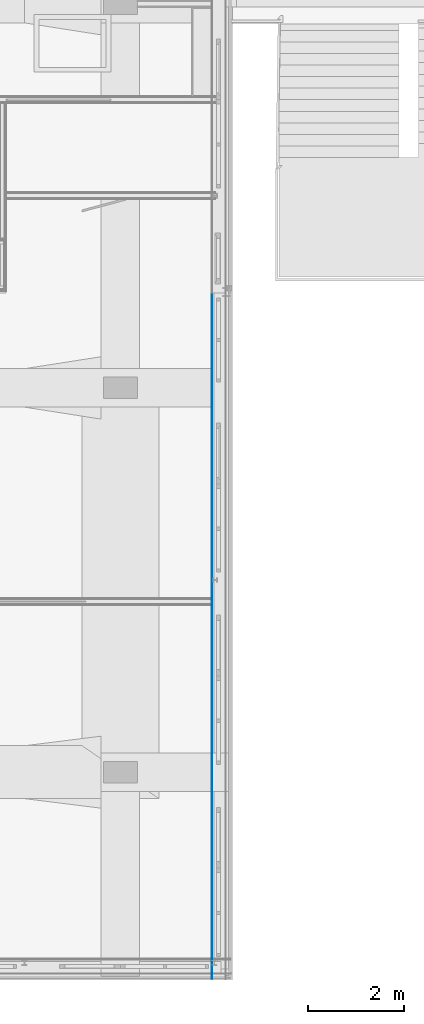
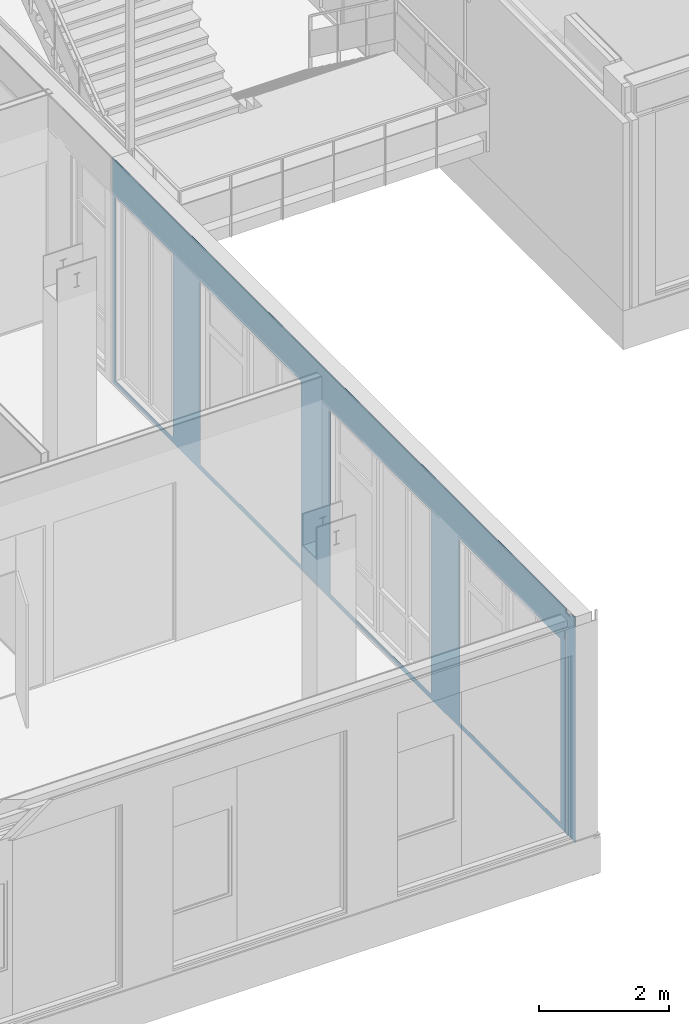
# One storey, part 39 of 94: 1 building element part, 7 openings, 1 element without a shape of its own.
"""IFC2X3 building model written with IfcOpenShell, lengths in millimetres."""

from ifc_helpers import new_model, entity, si_unit, converted_unit, derived_unit, money_unit, direction, frame, origin_with_axes, place, context, subcontext, project, spatial, faceted_brep, material, type_object, element, aggregate, save


model = new_model("IFC2X3")

# Units and contexts
model_context = context("Model", 3, precision=0.01, world=origin_with_axes(), true_north=direction((0.0, 1.0)))
body_context = subcontext(model_context, "Body", "Model", "MODEL_VIEW")
ifc_project = project(units=[si_unit("LENGTHUNIT", "METRE", prefix="MILLI"), si_unit("AREAUNIT", "SQUARE_METRE"), si_unit("VOLUMEUNIT", "CUBIC_METRE"), converted_unit("PLANEANGLEUNIT", "DEGREE", entity("IfcPlaneAngleMeasure", 0.0174532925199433), si_unit("PLANEANGLEUNIT", "RADIAN"), dimensions=[0, 0, 0, 0, 0, 0, 0]), money_unit("EUR"), converted_unit("TIMEUNIT", "Year", entity("IfcTimeMeasure", 31557600.0), si_unit("TIMEUNIT", "SECOND"), dimensions=[0, 0, 1, 0, 0, 0, 0]), si_unit("MASSUNIT", "GRAM", prefix="KILO"), si_unit("THERMODYNAMICTEMPERATUREUNIT", "DEGREE_CELSIUS"), si_unit("LUMINOUSINTENSITYUNIT", "LUMEN"), si_unit("ENERGYUNIT", "JOULE", prefix="MEGA"), derived_unit("THERMALCONDUCTANCEUNIT", [(si_unit("POWERUNIT", "WATT"), 1), (si_unit("LENGTHUNIT", "METRE"), -1), (si_unit("THERMODYNAMICTEMPERATUREUNIT", "KELVIN"), -1)]), derived_unit("SPECIFICHEATCAPACITYUNIT", [(si_unit("ENERGYUNIT", "JOULE"), 1), (si_unit("MASSUNIT", "GRAM", prefix="KILO"), -1), (si_unit("THERMODYNAMICTEMPERATUREUNIT", "KELVIN"), -1)]), derived_unit("MASSDENSITYUNIT", [(si_unit("MASSUNIT", "GRAM", prefix="KILO"), 1), (si_unit("VOLUMEUNIT", "CUBIC_METRE"), -1)])], contexts=[model_context])

# Site, building, storey
site_placement = place(None, origin_with_axes())
site = spatial("IfcSite", under=ifc_project, at=site_placement, Name="<site naam>", CompositionType="ELEMENT")
building_placement = place(site_placement, origin_with_axes())
building = spatial("IfcBuilding", under=site, at=building_placement, Name="<Naam gebouw>", CompositionType="ELEMENT")
storey_placement = place(building_placement, frame((0.0, 0.0, 4250.0), z_axis=(0.0, 0.0, 1.0), x_axis=(1.0, 0.0, 0.0)))
storey = spatial("IfcBuildingStorey", under=building, at=storey_placement, Name="01 1e verdieping", CompositionType="ELEMENT", Elevation=4250.0)

# Wall, openings, building element part
wall_type = type_object("IfcWallType", Name="HSB_285 gevelbeplating 420", PredefinedType="NOTDEFINED")
wall_placement = place(storey_placement, frame((4298.044439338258, -12297.99999999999, 0.0), z_axis=(0.0, 0.0, 1.0), x_axis=(0.0, 1.0, 0.0)))
wall = element("IfcWall", 1, at=wall_placement, inside=storey, type_object=wall_type, Name="21_Binnenwand_HSB_285")
opening_1_placement = place(wall_placement, frame((1379.500065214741, 0.0, 102.9999634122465), z_axis=(0.0, 0.0, 1.0), x_axis=(1.0, 0.0, 0.0)))
element("IfcOpeningElement", 2, at=opening_1_placement, cuts=wall, Name="21_BU-A-12a_305", context=body_context, shape_type="Brep", body=[
    faceted_brep([(918.5000652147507, 213.0000000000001, 0.0), (918.5000652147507, 213.0000000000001, 3454.0), (918.5000652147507, -1.000000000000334, 3454.0), (918.5000652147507, -1.000000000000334, 0.0), (918.5000652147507, 420.9999999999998, 0.0), (918.5000652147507, 420.9999999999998, 3454.0), (-918.5000652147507, 213.0000000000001, 3454.0), (-918.5000652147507, -1.000000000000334, 3454.0), (-918.5000652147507, -1.000000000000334, 0.0), (-918.5000652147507, 213.0000000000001, 0.0), (-918.5000652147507, 420.9999999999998, 0.0), (-918.5000652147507, 420.9999999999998, 3454.0)], [[[0, 1, 2, 3]], [[1, 0, 4, 5]], [[1, 6, 7, 2]], [[7, 8, 3, 2]], [[9, 0, 3, 8]], [[0, 9, 10, 4]], [[5, 4, 10, 11]], [[6, 1, 5, 11]], [[6, 9, 8, 7]], [[9, 6, 11, 10]]]),
])
opening_2_placement = place(wall_placement, frame((2931.50007085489, 0.0, 102.9999634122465), z_axis=(0.0, 0.0, 1.0), x_axis=(1.0, 0.0, 0.0)))
element("IfcOpeningElement", 3, at=opening_2_placement, cuts=wall, Name="21_BU-A-12b_305", context=body_context, shape_type="Brep", body=[
    faceted_brep([(633.4999291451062, 213.0000000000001, 0.0), (633.4999291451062, 213.0000000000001, 3454.0), (633.4999291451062, -1.000000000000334, 3454.0), (633.4999291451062, -1.000000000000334, 0.0), (633.4999291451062, 420.9999999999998, 0.0), (633.4999291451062, 420.9999999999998, 3454.0), (-633.4999291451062, 213.0000000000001, 3454.0), (-633.4999291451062, -1.000000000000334, 3454.0), (-633.4999291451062, -1.000000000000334, 0.0), (-633.4999291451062, 213.0000000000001, 0.0), (-633.4999291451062, 420.9999999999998, 0.0), (-633.4999291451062, 420.9999999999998, 3454.0)], [[[0, 1, 2, 3]], [[1, 0, 4, 5]], [[1, 6, 7, 2]], [[7, 8, 3, 2]], [[9, 0, 3, 8]], [[0, 9, 10, 4]], [[5, 4, 10, 11]], [[6, 1, 5, 11]], [[6, 9, 8, 7]], [[9, 6, 11, 10]]]),
])
opening_3_placement = place(wall_placement, frame((5379.47903416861, 0.0, 102.9999634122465), z_axis=(0.0, 0.0, 1.0), x_axis=(1.0, 0.0, 0.0)))
element("IfcOpeningElement", 4, at=opening_3_placement, cuts=wall, Name="21_BU-A-12a_305", context=body_context, shape_type="Brep", body=[
    faceted_brep([(918.5000652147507, 213.0000000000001, 0.0), (918.5000652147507, 213.0000000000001, 3454.0), (918.5000652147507, -1.000000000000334, 3454.0), (918.5000652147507, -1.000000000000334, 0.0), (918.5000652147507, 420.9999999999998, 0.0), (918.5000652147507, 420.9999999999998, 3454.0), (-918.5000652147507, 213.0000000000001, 3454.0), (-918.5000652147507, -1.000000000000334, 3454.0), (-918.5000652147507, -1.000000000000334, 0.0), (-918.5000652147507, 213.0000000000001, 0.0), (-918.5000652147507, 420.9999999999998, 0.0), (-918.5000652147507, 420.9999999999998, 3454.0)], [[[0, 1, 2, 3]], [[1, 0, 4, 5]], [[1, 6, 7, 2]], [[7, 8, 3, 2]], [[9, 0, 3, 8]], [[0, 9, 10, 4]], [[5, 4, 10, 11]], [[6, 1, 5, 11]], [[6, 9, 8, 7]], [[9, 6, 11, 10]]]),
])
opening_4_placement = place(wall_placement, frame((6931.500070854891, 0.0, 102.9999634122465), z_axis=(0.0, 0.0, 1.0), x_axis=(1.0, 0.0, 0.0)))
element("IfcOpeningElement", 5, at=opening_4_placement, cuts=wall, Name="21_BU-A-12b_305", context=body_context, shape_type="Brep", body=[
    faceted_brep([(633.4999291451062, 213.0000000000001, 0.0), (633.4999291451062, 213.0000000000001, 3454.0), (633.4999291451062, -1.000000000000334, 3454.0), (633.4999291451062, -1.000000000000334, 0.0), (633.4999291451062, 420.9999999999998, 0.0), (633.4999291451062, 420.9999999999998, 3454.0), (-633.4999291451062, 213.0000000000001, 3454.0), (-633.4999291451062, -1.000000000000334, 3454.0), (-633.4999291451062, -1.000000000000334, 0.0), (-633.4999291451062, 213.0000000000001, 0.0), (-633.4999291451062, 420.9999999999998, 0.0), (-633.4999291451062, 420.9999999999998, 3454.0)], [[[0, 1, 2, 3]], [[1, 0, 4, 5]], [[1, 6, 7, 2]], [[7, 8, 3, 2]], [[9, 0, 3, 8]], [[0, 9, 10, 4]], [[5, 4, 10, 11]], [[6, 1, 5, 11]], [[6, 9, 8, 7]], [[9, 6, 11, 10]]]),
])
opening_5_placement = place(wall_placement, frame((10931.50007085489, 0.0, 102.9999634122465), z_axis=(0.0, 0.0, 1.0), x_axis=(1.0, 0.0, 0.0)))
element("IfcOpeningElement", 6, at=opening_5_placement, cuts=wall, Name="21_BU-A-12b_305", context=body_context, shape_type="Brep", body=[
    faceted_brep([(633.4999291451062, 212.9999999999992, 0.0), (633.4999291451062, 212.9999999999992, 3454.0), (633.4999291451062, -1.000000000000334, 3454.0), (633.4999291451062, -1.000000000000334, 0.0), (633.4999291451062, 420.9999999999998, 0.0), (633.4999291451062, 420.9999999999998, 3454.0), (-633.4999291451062, 212.9999999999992, 3454.0), (-633.4999291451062, -1.000000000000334, 3454.0), (-633.4999291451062, -1.000000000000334, 0.0), (-633.4999291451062, 212.9999999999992, 0.0), (-633.4999291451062, 420.9999999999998, 0.0), (-633.4999291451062, 420.9999999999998, 3454.0)], [[[0, 1, 2, 3]], [[1, 0, 4, 5]], [[1, 6, 7, 2]], [[7, 8, 3, 2]], [[9, 0, 3, 8]], [[0, 9, 10, 4]], [[5, 4, 10, 11]], [[6, 1, 5, 11]], [[6, 9, 8, 7]], [[9, 6, 11, 10]]]),
])
opening_6_placement = place(wall_placement, frame((13295.52252618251, 0.0, 102.9999634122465), z_axis=(0.0, 0.0, 1.0), x_axis=(1.0, 0.0, 0.0)))
element("IfcOpeningElement", 7, at=opening_6_placement, cuts=wall, Name="21_BU-A-14a_305", context=body_context, shape_type="Brep", body=[
    faceted_brep([(879.4969387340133, 212.9999999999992, 0.0), (879.4969387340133, 212.9999999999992, 3454.0), (879.4969387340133, -1.000000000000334, 3454.0), (879.4969387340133, -1.000000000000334, 0.0), (879.4969387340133, 420.9999999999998, 0.0), (879.4969387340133, 420.9999999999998, 3454.0), (-879.4969387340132, 212.9999999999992, 3454.0), (-879.4969387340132, -1.000000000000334, 3454.0), (-879.4969387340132, -1.000000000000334, 0.0), (-879.4969387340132, 212.9999999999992, 0.0), (-879.4969387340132, 420.9999999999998, 0.0), (-879.4969387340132, 420.9999999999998, 3454.0)], [[[0, 1, 2, 3]], [[1, 0, 4, 5]], [[1, 6, 7, 2]], [[7, 8, 3, 2]], [[9, 0, 3, 8]], [[0, 9, 10, 4]], [[5, 4, 10, 11]], [[6, 1, 5, 11]], [[6, 9, 8, 7]], [[9, 6, 11, 10]]]),
])
opening_7_placement = place(wall_placement, frame((9379.500065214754, 0.0, 102.9999634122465), z_axis=(0.0, 0.0, 1.0), x_axis=(1.0, 0.0, 0.0)))
element("IfcOpeningElement", 8, at=opening_7_placement, cuts=wall, Name="21_BU-A-12a_305", context=body_context, shape_type="Brep", body=[
    faceted_brep([(918.5000652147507, 212.9999999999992, 0.0), (918.5000652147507, 212.9999999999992, 3454.0), (918.5000652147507, -1.000000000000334, 3454.0), (918.5000652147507, -1.000000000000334, 0.0), (918.5000652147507, 420.9999999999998, 0.0), (918.5000652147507, 420.9999999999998, 3454.0), (-918.5000652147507, 212.9999999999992, 3454.0), (-918.5000652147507, -1.000000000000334, 3454.0), (-918.5000652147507, -1.000000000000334, 0.0), (-918.5000652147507, 212.9999999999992, 0.0), (-918.5000652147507, 420.9999999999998, 0.0), (-918.5000652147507, 420.9999999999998, 3454.0)], [[[0, 1, 2, 3]], [[1, 0, 4, 5]], [[1, 6, 7, 2]], [[7, 8, 3, 2]], [[9, 0, 3, 8]], [[0, 9, 10, 4]], [[5, 4, 10, 11]], [[6, 1, 5, 11]], [[6, 9, 8, 7]], [[9, 6, 11, 10]]]),
])
ifc_material = material(Name="folie_dampdicht")
building_element_part_placement = place(wall_placement, origin_with_axes())
building_element_part = element("IfcBuildingElementPart", 9, at=building_element_part_placement, material=ifc_material, Name="folie_dampdicht", context=body_context, shape_type="Brep", body=[
    faceted_brep([(369.5000008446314, 391.9999999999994, 3618.499636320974), (369.5000008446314, 391.9999999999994, 3789.999753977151), (377.5000033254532, 391.9999999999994, 3789.999753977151), (377.5000033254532, 391.9999999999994, 3618.499636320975), (380.4704067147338, 391.9999999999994, 3618.499636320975), (380.4705738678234, 391.9999999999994, 3609.99927844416), (377.5000033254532, 391.9999999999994, 3609.99927844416), (377.5000033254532, 391.9999999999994, 0.0), (417.968378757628, 391.9999999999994, 0.0), (417.968378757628, 391.9999999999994, 3.000000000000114), (7771.434730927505, 391.9999999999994, 3.000000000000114), (7771.434730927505, 391.9999999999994, 0.0), (7921.434765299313, 391.9999999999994, 0.0), (7921.434765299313, 391.9999999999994, 3.000000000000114), (14276.35758320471, 391.9999999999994, 3.000000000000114), (14276.35758320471, 392.0000000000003, 4250.0), (260.9740966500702, 392.0000000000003, 4250.0), (260.9740966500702, 391.9999999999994, 4180.000039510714), (115.9741704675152, 391.9999999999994, 4180.00457070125), (115.9741704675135, 392.0000000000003, 4250.0), (0.0, 392.0000000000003, 4250.0), (0.0, 391.9999999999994, 0.0), (281.500002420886, 391.9999999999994, 0.0), (281.500002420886, 391.9999999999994, 3609.99927844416), (280.4696918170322, 391.9999999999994, 3609.99927844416), (280.4698589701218, 391.9999999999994, 3618.499636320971), (281.500002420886, 391.9999999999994, 3618.499636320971), (281.500002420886, 391.9999999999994, 3789.999753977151), (289.5000049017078, 391.9999999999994, 3789.999753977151), (289.5000049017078, 391.9999999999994, 3618.499636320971), (327.6700982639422, 391.9999999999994, 3618.49963632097), (327.6700982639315, 391.9999999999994, 3801.499799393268), (280.4698589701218, 391.9999999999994, 3801.499799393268), (280.4696918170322, 391.9999999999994, 3809.999956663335), (380.4705738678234, 391.9999999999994, 3809.999956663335), (380.4704067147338, 391.9999999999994, 3801.499799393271), (333.2701674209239, 391.9999999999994, 3801.499799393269), (333.2701674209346, 391.9999999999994, 3618.499636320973), (369.5000008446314, 392.5000000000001, 3618.499636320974), (369.5000008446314, 392.5000000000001, 3789.999753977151), (377.5000033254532, 392.5000000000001, 3789.999753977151), (377.5000033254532, 392.5000000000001, 3618.499636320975), (380.4704067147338, 392.5000000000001, 3618.499636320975), (380.4705738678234, 392.5000000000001, 3609.99927844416), (377.5000033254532, 392.5000000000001, 3609.99927844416), (377.5000033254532, 392.5000000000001, 0.0), (417.968378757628, 392.5000000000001, 0.0), (417.968378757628, 392.5000000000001, 3.000000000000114), (7771.434730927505, 392.5000000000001, 3.000000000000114), (7771.434730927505, 392.5000000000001, 0.0), (7921.434765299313, 392.4999999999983, 0.0), (7921.434765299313, 392.5000000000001, 3.000000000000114), (14276.35758320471, 392.5000000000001, 3.000000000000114), (14276.35758320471, 392.5000000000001, 4250.0), (260.9740966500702, 392.5000000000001, 4250.0), (260.9740966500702, 392.5000000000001, 4180.000039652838), (115.9741704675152, 392.5000000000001, 4180.00457070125), (115.9741704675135, 392.5000000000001, 4250.0), (0.0, 392.5000000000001, 4250.0), (0.0, 392.5000000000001, 0.0), (281.500002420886, 392.5000000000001, 0.0), (281.500002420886, 392.5000000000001, 3609.99927844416), (280.4696918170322, 392.5000000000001, 3609.99927844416), (280.4698589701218, 392.5000000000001, 3618.499636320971), (281.500002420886, 392.5000000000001, 3618.499636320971), (281.500002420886, 392.5000000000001, 3789.999753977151), (289.5000049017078, 392.5000000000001, 3789.999753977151), (289.5000049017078, 392.5000000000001, 3618.499636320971), (327.6700982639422, 392.5000000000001, 3618.49963632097), (327.6700982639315, 392.5000000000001, 3801.499799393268), (280.4698589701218, 392.5000000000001, 3801.499799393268), (280.4696918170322, 392.5000000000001, 3809.999956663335), (380.4705738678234, 392.5000000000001, 3809.999956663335), (380.4704067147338, 392.5000000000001, 3801.499799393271), (333.2701674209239, 392.5000000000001, 3801.499799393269), (333.2701674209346, 392.5000000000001, 3618.499636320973)], [[[0, 1, 2, 3, 4, 5, 6, 7, 8, 9, 10, 11, 12, 13, 14, 15, 16, 17, 18, 19, 20, 21, 22, 23, 24, 25, 26, 27, 28, 29, 30, 31, 32, 33, 34, 35, 36, 37]], [[1, 0, 38, 39]], [[2, 1, 39, 40]], [[3, 2, 40, 41]], [[3, 41, 42, 4]], [[43, 5, 4, 42]], [[44, 6, 5, 43]], [[7, 6, 44, 45]], [[7, 45, 46, 8]], [[46, 47, 9, 8]], [[47, 48, 10, 9]], [[48, 49, 11, 10]], [[11, 49, 50, 12]], [[50, 51, 13, 12]], [[13, 51, 52, 14]], [[53, 15, 14, 52]], [[53, 54, 16, 15]], [[55, 17, 16, 54]], [[56, 18, 17, 55]], [[56, 57, 19, 18]], [[20, 19, 57, 58]], [[21, 20, 58, 59]], [[60, 22, 21, 59]], [[61, 23, 22, 60]], [[23, 61, 62, 24]], [[63, 25, 24, 62]], [[64, 26, 25, 63]], [[27, 26, 64, 65]], [[28, 27, 65, 66]], [[29, 28, 66, 67]], [[29, 67, 68, 30]], [[69, 31, 30, 68]], [[70, 32, 31, 69]], [[71, 33, 32, 70]], [[72, 34, 33, 71]], [[73, 35, 34, 72]], [[74, 36, 35, 73]], [[75, 37, 36, 74]], [[38, 0, 37, 75]], [[39, 38, 75, 74, 73, 72, 71, 70, 69, 68, 67, 66, 65, 64, 63, 62, 61, 60, 59, 58, 57, 56, 55, 54, 53, 52, 51, 50, 49, 48, 47, 46, 45, 44, 43, 42, 41, 40]]]),
    faceted_brep([(369.5000008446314, 391.9999999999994, 3609.99927844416), (369.5000008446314, 392.5000000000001, 3609.99927844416), (289.5000049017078, 392.5000000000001, 3609.99927844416), (289.5000049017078, 391.9999999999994, 3609.99927844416), (369.5000008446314, 391.9999999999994, 0.0), (369.5000008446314, 392.5000000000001, 0.0), (289.5000049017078, 392.5000000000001, 0.0), (289.5000049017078, 391.9999999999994, 0.0)], [[[0, 1, 2, 3]], [[1, 0, 4, 5]], [[1, 5, 6, 2]], [[7, 3, 2, 6]], [[4, 0, 3, 7]], [[5, 4, 7, 6]]]),
])
aggregate(wall, [building_element_part])

save(model, "model.ifc")
